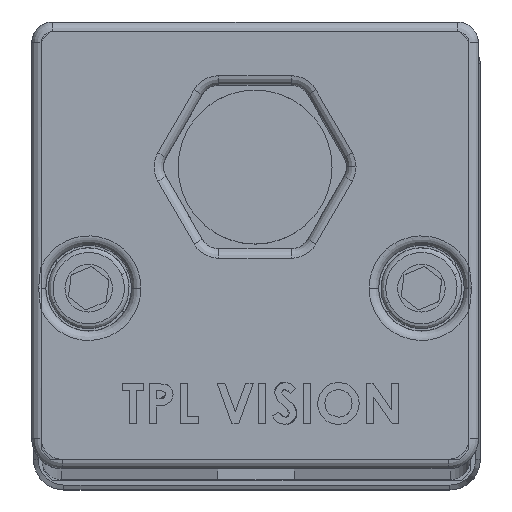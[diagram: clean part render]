
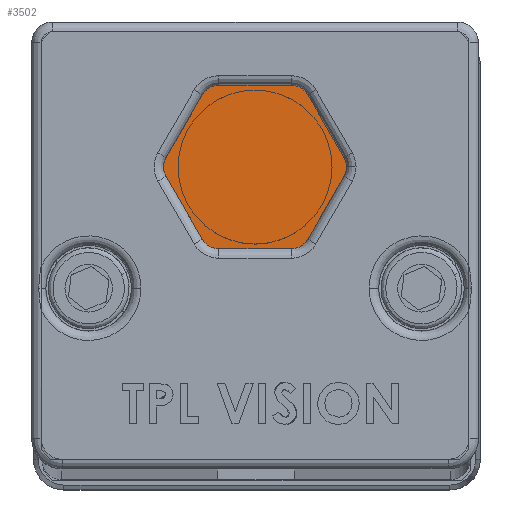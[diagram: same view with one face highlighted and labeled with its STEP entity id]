
A CAD part, top view. The second image highlights one B-rep face of the part: STEP entity #3502.
In plain terms, the highlighted planar face has unit normal (0, 0, 1).
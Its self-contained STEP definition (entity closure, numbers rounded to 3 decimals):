
#2783 = ORIENTED_EDGE ( 'NONE', *, *, #4282, .T. ) ;
#3502 = ADVANCED_FACE ( 'NONE', ( #16594 ), #16553, .T. ) ;
#3504 = EDGE_LOOP ( 'NONE', ( #3505, #3513, #3519, #3524, #3540, #3543, #3546, #3551, #2783, #4306, #4284, #4289, #4297 ) ) ;
#3505 = ORIENTED_EDGE ( 'NONE', *, *, #3508, .T. ) ;
#3508 = EDGE_CURVE ( 'NONE', #3510, #3511, #16552, .T. ) ;
#3510 = VERTEX_POINT ( 'NONE', #16542 ) ;
#3511 = VERTEX_POINT ( 'NONE', #16541 ) ;
#3513 = ORIENTED_EDGE ( 'NONE', *, *, #3514, .T. ) ;
#3514 = EDGE_CURVE ( 'NONE', #3511, #3515, #16526, .T. ) ;
#3515 = VERTEX_POINT ( 'NONE', #16520 ) ;
#3519 = ORIENTED_EDGE ( 'NONE', *, *, #3522, .T. ) ;
#3522 = EDGE_CURVE ( 'NONE', #3515, #3523, #16514, .T. ) ;
#3523 = VERTEX_POINT ( 'NONE', #16473 ) ;
#3524 = ORIENTED_EDGE ( 'NONE', *, *, #3526, .T. ) ;
#3526 = EDGE_CURVE ( 'NONE', #3523, #3528, #16467, .T. ) ;
#3528 = VERTEX_POINT ( 'NONE', #16460 ) ;
#3540 = ORIENTED_EDGE ( 'NONE', *, *, #3541, .T. ) ;
#3541 = EDGE_CURVE ( 'NONE', #3528, #3542, #16359, .T. ) ;
#3542 = VERTEX_POINT ( 'NONE', #16353 ) ;
#3543 = ORIENTED_EDGE ( 'NONE', *, *, #3544, .T. ) ;
#3544 = EDGE_CURVE ( 'NONE', #3542, #3545, #16351, .T. ) ;
#3545 = VERTEX_POINT ( 'NONE', #16345 ) ;
#3546 = ORIENTED_EDGE ( 'NONE', *, *, #3548, .T. ) ;
#3548 = EDGE_CURVE ( 'NONE', #3545, #3549, #16283, .T. ) ;
#3549 = VERTEX_POINT ( 'NONE', #16276 ) ;
#3551 = ORIENTED_EDGE ( 'NONE', *, *, #3552, .T. ) ;
#3552 = EDGE_CURVE ( 'NONE', #3549, #3555, #16271, .T. ) ;
#3555 = VERTEX_POINT ( 'NONE', #16267 ) ;
#4282 = EDGE_CURVE ( 'NONE', #3555, #6877, #19006, .T. ) ;
#4284 = ORIENTED_EDGE ( 'NONE', *, *, #4285, .T. ) ;
#4285 = EDGE_CURVE ( 'NONE', #6953, #4287, #18986, .T. ) ;
#4287 = VERTEX_POINT ( 'NONE', #18978 ) ;
#4289 = ORIENTED_EDGE ( 'NONE', *, *, #4291, .T. ) ;
#4291 = EDGE_CURVE ( 'NONE', #4287, #4294, #18973, .T. ) ;
#4294 = VERTEX_POINT ( 'NONE', #19764 ) ;
#4297 = ORIENTED_EDGE ( 'NONE', *, *, #4300, .T. ) ;
#4300 = EDGE_CURVE ( 'NONE', #4294, #3510, #19567, .T. ) ;
#4306 = ORIENTED_EDGE ( 'NONE', *, *, #6876, .T. ) ;
#6876 = EDGE_CURVE ( 'NONE', #6877, #6953, #25641, .T. ) ;
#6877 = VERTEX_POINT ( 'NONE', #25631 ) ;
#6953 = VERTEX_POINT ( 'NONE', #25966 ) ;
#16267 = CARTESIAN_POINT ( 'NONE',  ( -0.217, 13.5, 1199.5 ) ) ;
#16268 = DIRECTION ( 'NONE',  ( 0.5, 0.866, 0. ) ) ;
#16269 = VECTOR ( 'NONE', #16268, 1000. ) ;
#16270 = CARTESIAN_POINT ( 'NONE',  ( -4.027, 6.9, 1199.5 ) ) ;
#16271 = LINE ( 'NONE', #16270, #16269 ) ;
#16276 = CARTESIAN_POINT ( 'NONE',  ( -4.027, 6.9, 1199.5 ) ) ;
#16277 = DIRECTION ( 'NONE',  ( 1., 0., 0. ) ) ;
#16279 = DIRECTION ( 'NONE',  ( 0., 0., 1. ) ) ;
#16280 = CARTESIAN_POINT ( 'NONE',  ( -5.759, 7.9, 1199.5 ) ) ;
#16281 = AXIS2_PLACEMENT_3D ( 'NONE', #16280, #16279, #16277 ) ;
#16283 = CIRCLE ( 'NONE', #16281, 2. ) ;
#16345 = CARTESIAN_POINT ( 'NONE',  ( -5.759, 5.9, 1199.5 ) ) ;
#16348 = DIRECTION ( 'NONE',  ( 1., 0., 0. ) ) ;
#16349 = VECTOR ( 'NONE', #16348, 1000. ) ;
#16350 = CARTESIAN_POINT ( 'NONE',  ( -13.38, 5.9, 1199.5 ) ) ;
#16351 = LINE ( 'NONE', #16350, #16349 ) ;
#16353 = CARTESIAN_POINT ( 'NONE',  ( -13.38, 5.9, 1199.5 ) ) ;
#16354 = DIRECTION ( 'NONE',  ( 1., 0., 0. ) ) ;
#16356 = DIRECTION ( 'NONE',  ( 0., 0., 1. ) ) ;
#16357 = CARTESIAN_POINT ( 'NONE',  ( -13.38, 7.9, 1199.5 ) ) ;
#16358 = AXIS2_PLACEMENT_3D ( 'NONE', #16357, #16356, #16354 ) ;
#16359 = CIRCLE ( 'NONE', #16358, 2. ) ;
#16460 = CARTESIAN_POINT ( 'NONE',  ( -15.112, 6.9, 1199.5 ) ) ;
#16462 = DIRECTION ( 'NONE',  ( 0.5, -0.866, 0. ) ) ;
#16464 = VECTOR ( 'NONE', #16462, 1000. ) ;
#16465 = CARTESIAN_POINT ( 'NONE',  ( -18.923, 13.5, 1199.5 ) ) ;
#16467 = LINE ( 'NONE', #16465, #16464 ) ;
#16473 = CARTESIAN_POINT ( 'NONE',  ( -18.923, 13.5, 1199.5 ) ) ;
#16510 = DIRECTION ( 'NONE',  ( 1., 0., 0. ) ) ;
#16511 = DIRECTION ( 'NONE',  ( 0., 0., 1. ) ) ;
#16512 = CARTESIAN_POINT ( 'NONE',  ( -17.191, 14.5, 1199.5 ) ) ;
#16513 = AXIS2_PLACEMENT_3D ( 'NONE', #16512, #16511, #16510 ) ;
#16514 = CIRCLE ( 'NONE', #16513, 2. ) ;
#16520 = CARTESIAN_POINT ( 'NONE',  ( -18.923, 15.5, 1199.5 ) ) ;
#16522 = DIRECTION ( 'NONE',  ( -0.5, -0.866, 0. ) ) ;
#16523 = VECTOR ( 'NONE', #16522, 1000. ) ;
#16524 = CARTESIAN_POINT ( 'NONE',  ( -15.112, 22.1, 1199.5 ) ) ;
#16526 = LINE ( 'NONE', #16524, #16523 ) ;
#16541 = CARTESIAN_POINT ( 'NONE',  ( -15.112, 22.1, 1199.5 ) ) ;
#16542 = CARTESIAN_POINT ( 'NONE',  ( -13.38, 23.1, 1199.5 ) ) ;
#16543 = DIRECTION ( 'NONE',  ( 1., 0., 0. ) ) ;
#16544 = DIRECTION ( 'NONE',  ( 0., 0., 1. ) ) ;
#16545 = CARTESIAN_POINT ( 'NONE',  ( -13.38, 21.1, 1199.5 ) ) ;
#16546 = AXIS2_PLACEMENT_3D ( 'NONE', #16545, #16544, #16543 ) ;
#16547 = DIRECTION ( 'NONE',  ( 1., 0., 0. ) ) ;
#16549 = DIRECTION ( 'NONE',  ( 0., 0., 1. ) ) ;
#16550 = CARTESIAN_POINT ( 'NONE',  ( -13.38, 21.1, 1199.5 ) ) ;
#16551 = AXIS2_PLACEMENT_3D ( 'NONE', #16550, #16549, #16547 ) ;
#16552 = CIRCLE ( 'NONE', #16546, 2. ) ;
#16553 = PLANE ( 'NONE',  #16551 ) ;
#16594 = FACE_OUTER_BOUND ( 'NONE', #3504, .T. ) ;
#18973 = CIRCLE ( 'NONE', #19570, 2. ) ;
#18978 = CARTESIAN_POINT ( 'NONE',  ( -4.027, 22.1, 1199.5 ) ) ;
#18980 = DIRECTION ( 'NONE',  ( -0.5, 0.866, 0. ) ) ;
#18982 = VECTOR ( 'NONE', #18980, 1000. ) ;
#18984 = CARTESIAN_POINT ( 'NONE',  ( -0.217, 15.5, 1199.5 ) ) ;
#18986 = LINE ( 'NONE', #18984, #18982 ) ;
#18989 = DIRECTION ( 'NONE',  ( 1., 0., 0. ) ) ;
#18990 = DIRECTION ( 'NONE',  ( 0., 0., 1. ) ) ;
#18992 = CARTESIAN_POINT ( 'NONE',  ( -1.949, 14.5, 1199.5 ) ) ;
#18993 = AXIS2_PLACEMENT_3D ( 'NONE', #18992, #18990, #18989 ) ;
#19006 = CIRCLE ( 'NONE', #18993, 2. ) ;
#19567 = LINE ( 'NONE', #19742, #19741 ) ;
#19570 = AXIS2_PLACEMENT_3D ( 'NONE', #19771, #19769, #19766 ) ;
#19740 = DIRECTION ( 'NONE',  ( -1., 0., 0. ) ) ;
#19741 = VECTOR ( 'NONE', #19740, 1000. ) ;
#19742 = CARTESIAN_POINT ( 'NONE',  ( -5.759, 23.1, 1199.5 ) ) ;
#19764 = CARTESIAN_POINT ( 'NONE',  ( -5.759, 23.1, 1199.5 ) ) ;
#19766 = DIRECTION ( 'NONE',  ( 1., 0., 0. ) ) ;
#19769 = DIRECTION ( 'NONE',  ( 0., 0., 1. ) ) ;
#19771 = CARTESIAN_POINT ( 'NONE',  ( -5.759, 21.1, 1199.5 ) ) ;
#25631 = CARTESIAN_POINT ( 'NONE',  ( 0.051, 14.5, 1199.5 ) ) ;
#25632 = DIRECTION ( 'NONE',  ( 1., 0., 0. ) ) ;
#25633 = DIRECTION ( 'NONE',  ( 0., 0., 1. ) ) ;
#25634 = CARTESIAN_POINT ( 'NONE',  ( -1.949, 14.5, 1199.5 ) ) ;
#25635 = AXIS2_PLACEMENT_3D ( 'NONE', #25634, #25633, #25632 ) ;
#25641 = CIRCLE ( 'NONE', #25635, 2. ) ;
#25966 = CARTESIAN_POINT ( 'NONE',  ( -0.217, 15.5, 1199.5 ) ) ;
